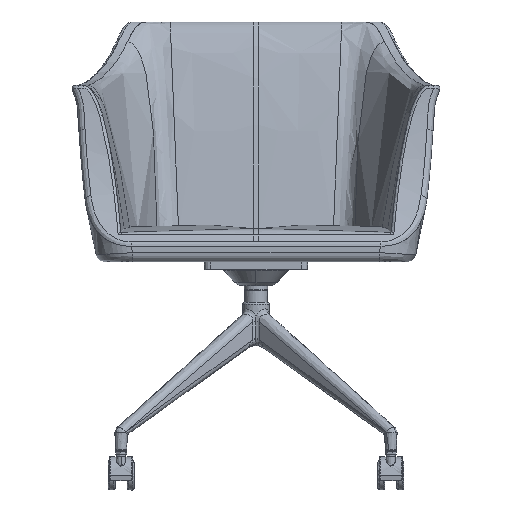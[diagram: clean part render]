
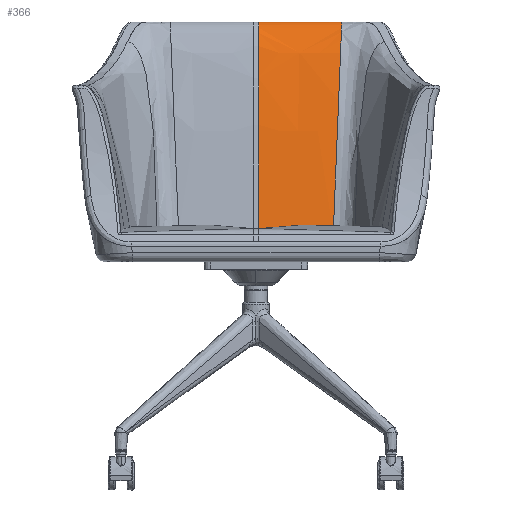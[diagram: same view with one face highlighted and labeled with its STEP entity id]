
A CAD part, front view. The second image highlights one B-rep face of the part: STEP entity #366.
In plain terms, the highlighted free-form (B-spline) face has degree [3, 3] with [7, 4] control points.
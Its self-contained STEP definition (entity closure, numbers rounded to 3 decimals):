
#39=B_SPLINE_SURFACE_WITH_KNOTS('',3,3,((#26355,#26356,#26357,#26358),(#26359,
#26360,#26361,#26362),(#26363,#26364,#26365,#26366),(#26367,#26368,#26369,
#26370),(#26371,#26372,#26373,#26374),(#26375,#26376,#26377,#26378),(#26379,
#26380,#26381,#26382)),.UNSPECIFIED.,.F.,.F.,.F.,(4,1,1,1,4),(4,4),(0.,
34.482,68.964,103.446,137.928),(0.,
428.274),.UNSPECIFIED.);
#366=ADVANCED_FACE('',(#1256),#39,.T.);
#1256=FACE_OUTER_BOUND('',#2150,.T.);
#2150=EDGE_LOOP('',(#3703,#3704,#3705,#3706));
#3703=ORIENTED_EDGE('',*,*,#7461,.T.);
#3704=ORIENTED_EDGE('',*,*,#7463,.T.);
#3705=ORIENTED_EDGE('',*,*,#7393,.T.);
#3706=ORIENTED_EDGE('',*,*,#7459,.F.);
#7393=EDGE_CURVE('',#11764,#11765,#9474,.T.);
#7459=EDGE_CURVE('',#11803,#11765,#9530,.T.);
#7461=EDGE_CURVE('',#11803,#11804,#9532,.T.);
#7463=EDGE_CURVE('',#11804,#11764,#9534,.T.);
#9474=B_SPLINE_CURVE_WITH_KNOTS('',3,(#43171,#43172,#43173,#43174),
 .UNSPECIFIED.,.F.,.F.,(4,4),(-399.065,0.),.UNSPECIFIED.);
#9530=B_SPLINE_CURVE_WITH_KNOTS('',3,(#44673,#44674,#44675,#44676,#44677,
#44678,#44679,#44680,#44681,#44682,#44683,#44684,#44685,#44686,#44687,#44688,
#44689,#44690,#44691,#44692,#44693,#44694,#44695,#44696,#44697,#44698,#44699,
#44700,#44701,#44702),.UNSPECIFIED.,.F.,.F.,(4,2,2,2,2,2,2,2,2,2,2,2,2,
2,4),(-1.,-0.937,-0.875,-0.75,-0.687,
-0.625,-0.562,-0.5,-0.437,
-0.375,-0.312,-0.25,-0.125,
-0.062,0.),.UNSPECIFIED.);
#9532=B_SPLINE_CURVE_WITH_KNOTS('',3,(#44717,#44718,#44719,#44720),
 .UNSPECIFIED.,.F.,.F.,(4,4),(0.,1.),.UNSPECIFIED.);
#9534=B_SPLINE_CURVE_WITH_KNOTS('',1,(#44723,#44724),.UNSPECIFIED.,.F.,
 .F.,(2,2),(0.,137.928),.UNSPECIFIED.);
#11764=VERTEX_POINT('',#38817);
#11765=VERTEX_POINT('',#38818);
#11803=VERTEX_POINT('',#38856);
#11804=VERTEX_POINT('',#38857);
#26355=CARTESIAN_POINT('',(4.19,398.,125.457));
#26356=CARTESIAN_POINT('',(4.19,586.5,95.557));
#26357=CARTESIAN_POINT('',(4.19,775.,65.658));
#26358=CARTESIAN_POINT('',(4.19,775.,19.427));
#26359=CARTESIAN_POINT('',(14.413,398.,125.457));
#26360=CARTESIAN_POINT('',(15.048,586.5,95.558));
#26361=CARTESIAN_POINT('',(15.684,775.,65.659));
#26362=CARTESIAN_POINT('',(15.684,775.,19.427));
#26363=CARTESIAN_POINT('',(34.858,398.,125.457));
#26364=CARTESIAN_POINT('',(36.765,586.5,95.558));
#26365=CARTESIAN_POINT('',(38.672,775.,65.659));
#26366=CARTESIAN_POINT('',(38.672,775.,19.427));
#26367=CARTESIAN_POINT('',(65.525,398.,125.457));
#26368=CARTESIAN_POINT('',(69.34,586.5,95.561));
#26369=CARTESIAN_POINT('',(73.154,775.,65.665));
#26370=CARTESIAN_POINT('',(73.154,775.,19.427));
#26371=CARTESIAN_POINT('',(96.193,398.,125.457));
#26372=CARTESIAN_POINT('',(101.915,586.5,95.565));
#26373=CARTESIAN_POINT('',(107.636,775.,65.674));
#26374=CARTESIAN_POINT('',(107.636,775.,19.427));
#26375=CARTESIAN_POINT('',(116.638,398.,125.457));
#26376=CARTESIAN_POINT('',(123.631,586.5,95.57));
#26377=CARTESIAN_POINT('',(130.624,775.,65.683));
#26378=CARTESIAN_POINT('',(130.624,775.,19.427));
#26379=CARTESIAN_POINT('',(126.861,398.,125.457));
#26380=CARTESIAN_POINT('',(134.489,586.5,95.572));
#26381=CARTESIAN_POINT('',(142.118,775.,65.688));
#26382=CARTESIAN_POINT('',(142.118,775.,19.427));
#38817=CARTESIAN_POINT('',(4.19,775.,19.427));
#38818=CARTESIAN_POINT('',(4.19,424.714,121.214));
#38856=CARTESIAN_POINT('',(127.962,425.204,121.138));
#38857=CARTESIAN_POINT('',(142.118,775.,19.427));
#43171=CARTESIAN_POINT('',(4.19,775.,19.427));
#43172=CARTESIAN_POINT('',(4.19,775.,63.473));
#43173=CARTESIAN_POINT('',(4.19,603.901,92.694));
#43174=CARTESIAN_POINT('',(4.19,424.714,121.214));
#44673=CARTESIAN_POINT('',(127.962,425.204,121.138));
#44674=CARTESIAN_POINT('',(125.383,425.272,121.128));
#44675=CARTESIAN_POINT('',(122.804,425.329,121.118));
#44676=CARTESIAN_POINT('',(117.646,425.424,121.103));
#44677=CARTESIAN_POINT('',(115.067,425.463,121.097));
#44678=CARTESIAN_POINT('',(107.329,425.554,121.082));
#44679=CARTESIAN_POINT('',(102.17,425.582,121.077));
#44680=CARTESIAN_POINT('',(94.43,425.586,121.077));
#44681=CARTESIAN_POINT('',(91.851,425.581,121.078));
#44682=CARTESIAN_POINT('',(86.691,425.559,121.081));
#44683=CARTESIAN_POINT('',(84.111,425.544,121.083));
#44684=CARTESIAN_POINT('',(78.952,425.504,121.089));
#44685=CARTESIAN_POINT('',(76.372,425.481,121.093));
#44686=CARTESIAN_POINT('',(71.213,425.428,121.101));
#44687=CARTESIAN_POINT('',(68.634,425.398,121.106));
#44688=CARTESIAN_POINT('',(63.476,425.334,121.116));
#44689=CARTESIAN_POINT('',(60.896,425.299,121.122));
#44690=CARTESIAN_POINT('',(55.739,425.228,121.133));
#44691=CARTESIAN_POINT('',(53.16,425.192,121.139));
#44692=CARTESIAN_POINT('',(48.003,425.119,121.15));
#44693=CARTESIAN_POINT('',(45.425,425.083,121.156));
#44694=CARTESIAN_POINT('',(40.268,425.011,121.167));
#44695=CARTESIAN_POINT('',(37.691,424.976,121.173));
#44696=CARTESIAN_POINT('',(29.957,424.878,121.188));
#44697=CARTESIAN_POINT('',(24.803,424.823,121.197));
#44698=CARTESIAN_POINT('',(17.072,424.763,121.207));
#44699=CARTESIAN_POINT('',(14.496,424.746,121.209));
#44700=CARTESIAN_POINT('',(9.343,424.723,121.213));
#44701=CARTESIAN_POINT('',(6.768,424.715,121.214));
#44702=CARTESIAN_POINT('',(4.19,424.714,121.214));
#44717=CARTESIAN_POINT('',(127.962,425.204,121.138));
#44718=CARTESIAN_POINT('',(135.206,604.213,92.657));
#44719=CARTESIAN_POINT('',(142.118,775.,63.461));
#44720=CARTESIAN_POINT('',(142.118,775.,19.427));
#44723=CARTESIAN_POINT('',(142.118,775.,19.427));
#44724=CARTESIAN_POINT('',(4.19,775.,19.427));
